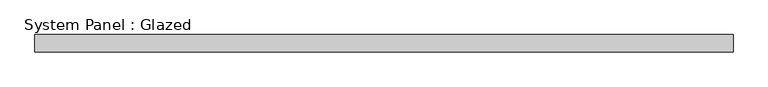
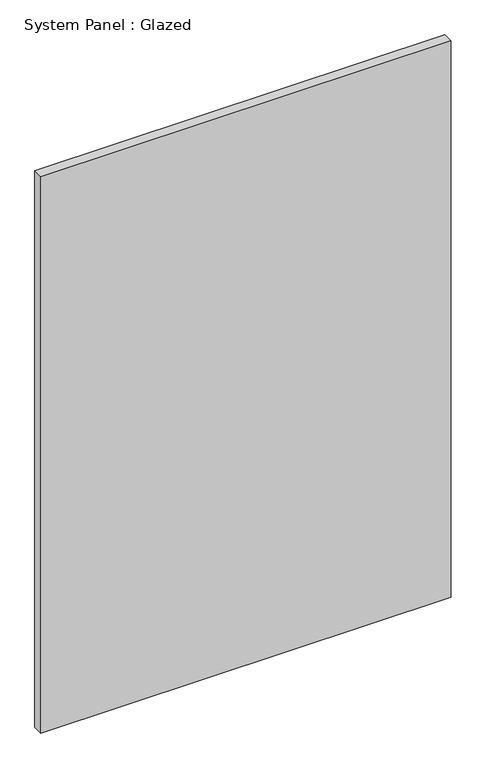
"""IFC4 building model written with IfcOpenShell, lengths in millimetres: plate geometry, System Panel : Glazed."""

from ifc_helpers import new_model, si_unit, origin, origin_with_axes, place, context, project, spatial, polyline, outline, extrude, source, transform, mapped, element, save


def system_panel_glazed_92077a33(model_context):
    return source(origin(), model_context, "Body", "SweptSolid", [
        extrude(outline(polyline([(509.5875001, -44.45), (-509.5875001, -44.45), (-509.5875001, -19.05), (509.5875001, -19.05), (509.5875001, -44.45)])), origin_with_axes(), (0.0, 0.0, 1.0), 1460.5),
    ])


if __name__ == "__main__":
    model = new_model("IFC4")
    model_context = context("Model", 3, world=origin())
    ifc_project = project(units=[si_unit("LENGTHUNIT", "METRE", prefix="MILLI")], contexts=[model_context])
    site = spatial("IfcSite", under=ifc_project)
    building = spatial("IfcBuilding", under=site)
    placement = place(None, origin())
    system_panel_glazed_shape = system_panel_glazed_92077a33(model_context)
    element("IfcPlate", 1, ObjectType="System Panel : Glazed", at=placement, inside=building, context=model_context, shape_type="MappedRepresentation", body=[
        mapped(system_panel_glazed_shape, transform((0.0, 0.0, 0.0), x_axis=(1.0, 0.0, 0.0), y_axis=(0.0, 1.0, 0.0), z_axis=(0.0, 0.0, 1.0))),
    ])
    save(model, "model.ifc")
